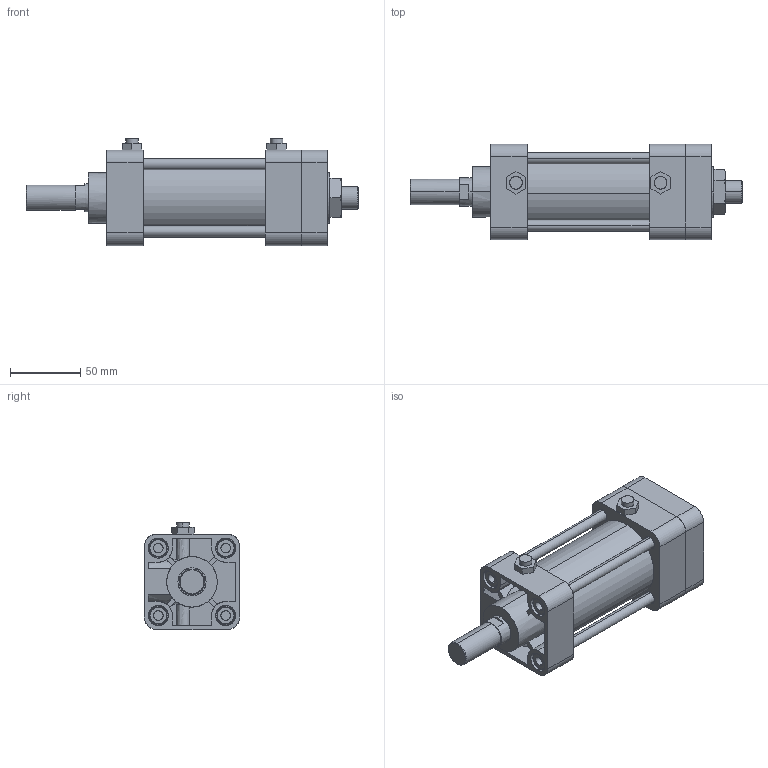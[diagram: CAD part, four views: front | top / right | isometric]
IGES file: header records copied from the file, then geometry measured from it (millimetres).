
Start section: SolidWorks IGES file using analytic representation for surfaces
Global section: file name: C:\Users\Toshiba\Desktop\KGA2-50#-50-N.IGS; native system: SolidWorks 2014; preprocessor: SolidWorks 2014; author: Toshiba; date: 160414.153953; units: millimetre
Bounding box: 236.5 x 68 x 76.3 mm (x, y, z)
Surface area: 116088.5 mm2 (no closed solid volume)
Topology: 0 solids, 0 shells, 364 faces, 5762 edges, 5758 vertices
Faces by surface type: bspline 194, revolution 170
